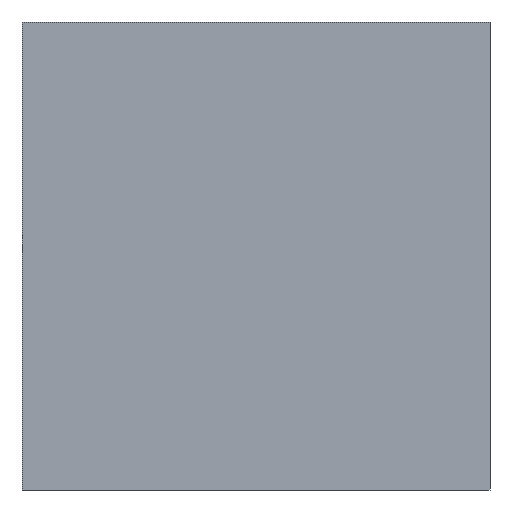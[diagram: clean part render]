
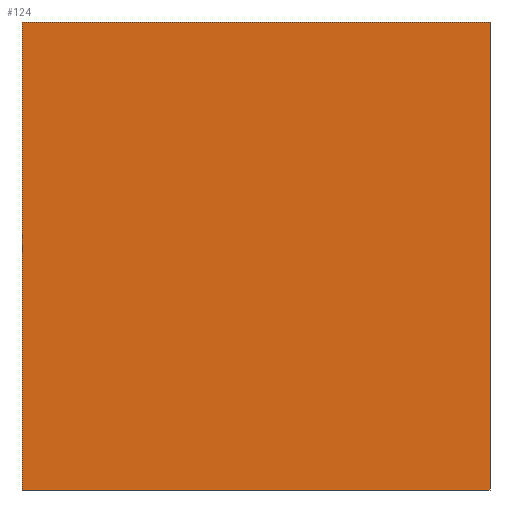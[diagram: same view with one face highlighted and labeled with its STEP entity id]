
A CAD part, front view. The second image highlights one B-rep face of the part: STEP entity #124.
In plain terms, the highlighted planar face has unit normal (0, -1, 0).
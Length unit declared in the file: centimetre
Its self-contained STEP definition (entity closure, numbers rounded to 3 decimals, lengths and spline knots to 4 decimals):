
#1 = DIRECTION ( 'NONE',  ( 1., 0., 0. ) ) ;
#13 = CARTESIAN_POINT ( 'NONE',  ( 0., 0., 1000. ) ) ;
#20 = LINE ( 'NONE', #565, #27 ) ;
#27 = VECTOR ( 'NONE', #193, 100. ) ;
#34 = ORIENTED_EDGE ( 'NONE', *, *, #78, .F. ) ;
#74 = CARTESIAN_POINT ( 'NONE',  ( 0., 0., 1000. ) ) ;
#78 = EDGE_CURVE ( 'NONE', #82, #79, #156, .T. ) ;
#79 = VERTEX_POINT ( 'NONE', #523 ) ;
#82 = VERTEX_POINT ( 'NONE', #335 ) ;
#103 = CARTESIAN_POINT ( 'NONE',  ( 0., 0., 0. ) ) ;
#115 = EDGE_CURVE ( 'NONE', #79, #362, #20, .T. ) ;
#124 = ADVANCED_FACE ( 'NONE', ( #349 ), #208, .F. ) ;
#156 = LINE ( 'NONE', #13, #447 ) ;
#183 = ORIENTED_EDGE ( 'NONE', *, *, #344, .T. ) ;
#187 = CARTESIAN_POINT ( 'NONE',  ( 0., 0., 0. ) ) ;
#193 = DIRECTION ( 'NONE',  ( 0., 0., -1. ) ) ;
#196 = CARTESIAN_POINT ( 'NONE',  ( 0., 0., 1000. ) ) ;
#208 = PLANE ( 'NONE',  #438 ) ;
#214 = VERTEX_POINT ( 'NONE', #103 ) ;
#219 = ORIENTED_EDGE ( 'NONE', *, *, #517, .T. ) ;
#300 = LINE ( 'NONE', #74, #351 ) ;
#320 = ORIENTED_EDGE ( 'NONE', *, *, #115, .F. ) ;
#335 = CARTESIAN_POINT ( 'NONE',  ( 0., 0., 1000. ) ) ;
#344 = EDGE_CURVE ( 'NONE', #82, #214, #300, .T. ) ;
#349 = FACE_OUTER_BOUND ( 'NONE', #411, .T. ) ;
#351 = VECTOR ( 'NONE', #402, 100. ) ;
#362 = VERTEX_POINT ( 'NONE', #473 ) ;
#402 = DIRECTION ( 'NONE',  ( 0., 0., -1. ) ) ;
#411 = EDGE_LOOP ( 'NONE', ( #219, #320, #34, #183 ) ) ;
#438 = AXIS2_PLACEMENT_3D ( 'NONE', #196, #513, #527 ) ;
#447 = VECTOR ( 'NONE', #471, 100. ) ;
#470 = LINE ( 'NONE', #187, #502 ) ;
#471 = DIRECTION ( 'NONE',  ( 1., 0., 0. ) ) ;
#473 = CARTESIAN_POINT ( 'NONE',  ( 1000., 0., 0. ) ) ;
#502 = VECTOR ( 'NONE', #1, 100. ) ;
#513 = DIRECTION ( 'NONE',  ( 0., 1., 0. ) ) ;
#517 = EDGE_CURVE ( 'NONE', #214, #362, #470, .T. ) ;
#523 = CARTESIAN_POINT ( 'NONE',  ( 1000., 0., 1000. ) ) ;
#527 = DIRECTION ( 'NONE',  ( 0., 0., 1. ) ) ;
#565 = CARTESIAN_POINT ( 'NONE',  ( 1000., 0., 1000. ) ) ;
